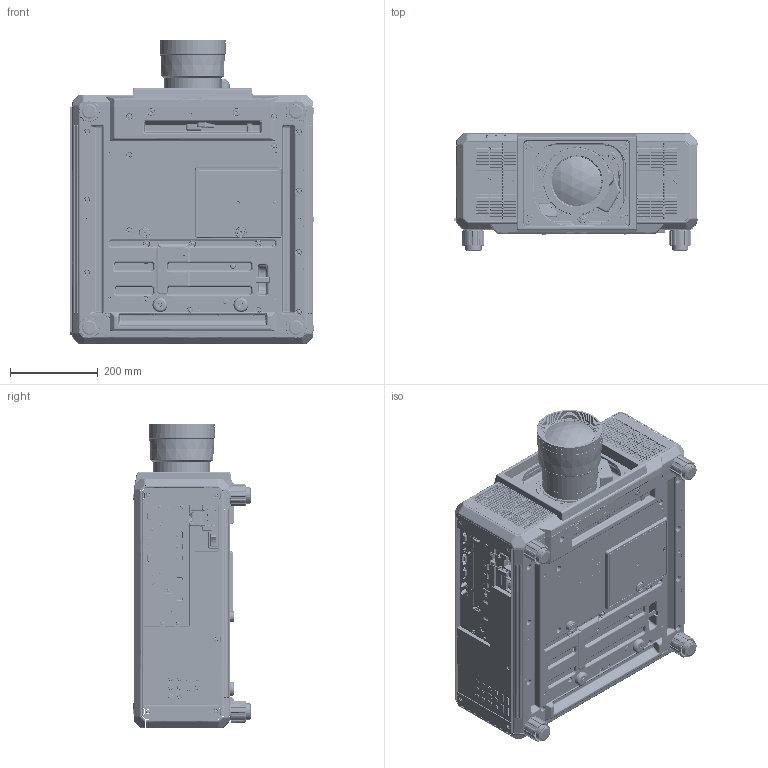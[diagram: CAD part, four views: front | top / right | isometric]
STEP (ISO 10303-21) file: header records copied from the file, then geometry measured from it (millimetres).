
FILE_DESCRIPTION(/* description */ (''),/* implementation_level */ '2;1');
FILE_NAME(/* name */ '01102991_ZA00_RQ25K_D75LE10_FACE.stp',/* time_stamp */ '2022-12-05T15:29:12+09:00',/* author */ (''),/* organization */ (''),/* preprocessor_version */ 'ST-DEVELOPER v16',/* originating_system */ 'SIEMENS PLM Software NX 10.0',/* authorisation */ '');
FILE_SCHEMA (('AUTOMOTIVE_DESIGN { 1 0 10303 214 3 1 1 1 }'));
Products named in the file (1): 01102991_ZA00
Bounding box: 556.3 x 269 x 695.65 mm (x, y, z)
Surface area: 1972355 mm2 (no closed solid volume)
Topology: 0 solids, 2215 shells, 10357 faces, 47192 edges, 38478 vertices
Faces by surface type: plane 5217, cylinder 3990, torus 456, bspline 403, cone 155, sphere 119, revolution 15, extrusion 2
Full cylindrical faces by diameter (mm): 1.02 x2, 3 x1, 3.6 x2, 5 x2, 6 x2, 7 x2, 8 x2, 9.5 x2, 14.9 x2, 16 x1, 23.647 x1, 37.2 x4, 40 x4, 110.7 x1, 110.8 x1, 116.7 x1, 125.4 x1, 125.6 x2, 126.2 x1, 126.6 x1, 129 x1, 144.4 x1, 147.5 x1, 149 x1, 150 x2, 151 x1, 154 x1
Entity records: 573974 total; most frequent: CARTESIAN_POINT 134322, DIRECTION 77293, ORIENTED_EDGE 57115, EDGE_CURVE 46670, VERTEX_POINT 38323, VECTOR 26474, LINE 26472, AXIS2_PLACEMENT_3D 25402
